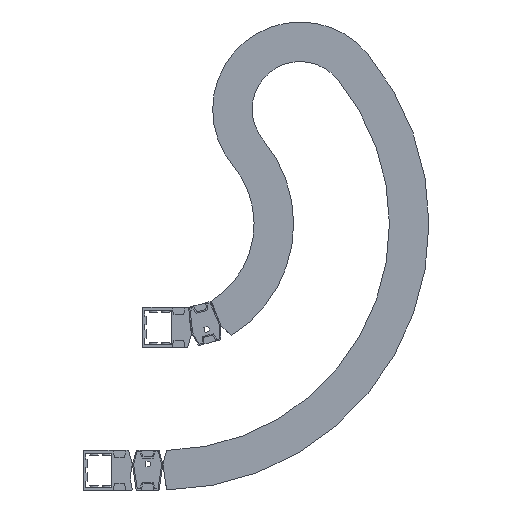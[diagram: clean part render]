
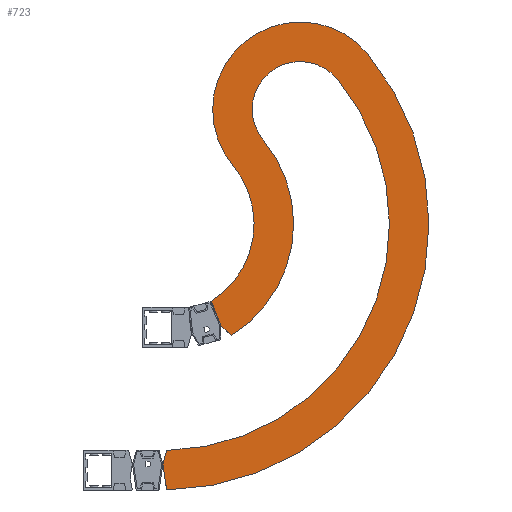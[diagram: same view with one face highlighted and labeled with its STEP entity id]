
A CAD part, front view. The second image highlights one B-rep face of the part: STEP entity #723.
In plain terms, the highlighted planar face has unit normal (0, -1, 0).
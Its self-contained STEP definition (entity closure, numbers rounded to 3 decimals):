
#723 = ADVANCED_FACE( '', ( #1628 ), #1629, .F. );
#1628 = FACE_OUTER_BOUND( '', #2756, .T. );
#1629 = PLANE( '', #2757 );
#2756 = EDGE_LOOP( '', ( #4772, #4773, #4774, #4775, #4776, #4777, #4778, #4779, #4780, #4781 ) );
#2757 = AXIS2_PLACEMENT_3D( '', #4782, #4783, #4784 );
#4772 = ORIENTED_EDGE( '', *, *, #7454, .F. );
#4773 = ORIENTED_EDGE( '', *, *, #7678, .F. );
#4774 = ORIENTED_EDGE( '', *, *, #7458, .F. );
#4775 = ORIENTED_EDGE( '', *, *, #7679, .T. );
#4776 = ORIENTED_EDGE( '', *, *, #7680, .F. );
#4777 = ORIENTED_EDGE( '', *, *, #7681, .F. );
#4778 = ORIENTED_EDGE( '', *, *, #7045, .F. );
#4779 = ORIENTED_EDGE( '', *, *, #7016, .T. );
#4780 = ORIENTED_EDGE( '', *, *, #7281, .T. );
#4781 = ORIENTED_EDGE( '', *, *, #7682, .F. );
#4782 = CARTESIAN_POINT( '', ( 0., -51.5, 0. ) );
#4783 = DIRECTION( '', ( 0., 1., 0. ) );
#4784 = DIRECTION( '', ( 0., 0., 1. ) );
#7016 = EDGE_CURVE( '', #8464, #8465, #8466, .T. );
#7045 = EDGE_CURVE( '', #8464, #8516, #8517, .T. );
#7281 = EDGE_CURVE( '', #8465, #8926, #8927, .T. );
#7454 = EDGE_CURVE( '', #9214, #9216, #9217, .T. );
#7458 = EDGE_CURVE( '', #9222, #9223, #9224, .T. );
#7678 = EDGE_CURVE( '', #9223, #9214, #9556, .T. );
#7679 = EDGE_CURVE( '', #9222, #9557, #9558, .T. );
#7680 = EDGE_CURVE( '', #9559, #9557, #9560, .T. );
#7681 = EDGE_CURVE( '', #8516, #9559, #9561, .T. );
#7682 = EDGE_CURVE( '', #9216, #8926, #9562, .T. );
#8464 = VERTEX_POINT( '', #10574 );
#8465 = VERTEX_POINT( '', #10575 );
#8466 = CIRCLE( '', #10576, 63. );
#8516 = VERTEX_POINT( '', #10643 );
#8517 = CIRCLE( '', #10644, 172. );
#8926 = VERTEX_POINT( '', #11224 );
#8927 = CIRCLE( '', #11225, 298. );
#9214 = VERTEX_POINT( '', #11616 );
#9216 = VERTEX_POINT( '', #11619 );
#9217 = LINE( '', #11620, #11621 );
#9222 = VERTEX_POINT( '', #11628 );
#9223 = VERTEX_POINT( '', #11629 );
#9224 = CIRCLE( '', #11630, 115. );
#9556 = CIRCLE( '', #12113, 350. );
#9557 = VERTEX_POINT( '', #12114 );
#9558 = CIRCLE( '', #12115, 120. );
#9559 = VERTEX_POINT( '', #12116 );
#9560 = LINE( '', #12117, #12118 );
#9561 = LINE( '', #12119, #12120 );
#9562 = LINE( '', #12121, #12122 );
#10574 = CARTESIAN_POINT( '', ( 132.127, -51.5, 110.121 ) );
#10575 = CARTESIAN_POINT( '', ( 228.917, -51.5, 190.79 ) );
#10576 = AXIS2_PLACEMENT_3D( '', #13334, #13335, #13336 );
#10643 = CARTESIAN_POINT( '', ( 89.657, -51.5, -146.784 ) );
#10644 = AXIS2_PLACEMENT_3D( '', #13369, #13370, #13371 );
#11224 = CARTESIAN_POINT( '', ( 4.992, -51.5, -297.958 ) );
#11225 = AXIS2_PLACEMENT_3D( '', #13639, #13640, #13641 );
#11616 = CARTESIAN_POINT( '', ( 4.975, -51.5, -349.965 ) );
#11619 = CARTESIAN_POINT( '', ( 0., -51.5, -316. ) );
#11620 = CARTESIAN_POINT( '', ( 4.975, -51.5, -349.965 ) );
#11621 = VECTOR( '', #13843, 1000. );
#11628 = CARTESIAN_POINT( '', ( 92.181, -51.5, 76.828 ) );
#11629 = CARTESIAN_POINT( '', ( 268.862, -51.5, 224.083 ) );
#11630 = AXIS2_PLACEMENT_3D( '', #13846, #13847, #13848 );
#12113 = AXIS2_PLACEMENT_3D( '', #14081, #14082, #14083 );
#12114 = CARTESIAN_POINT( '', ( 63.857, -51.5, -101.599 ) );
#12115 = AXIS2_PLACEMENT_3D( '', #14084, #14085, #14086 );
#12116 = CARTESIAN_POINT( '', ( 76.45, -51.5, -133.684 ) );
#12117 = CARTESIAN_POINT( '', ( 76.45, -51.5, -133.684 ) );
#12118 = VECTOR( '', #14087, 1000. );
#12119 = CARTESIAN_POINT( '', ( 89.657, -51.5, -146.784 ) );
#12120 = VECTOR( '', #14088, 1000. );
#12121 = CARTESIAN_POINT( '', ( 0., -51.5, -316. ) );
#12122 = VECTOR( '', #14089, 1000. );
#13334 = CARTESIAN_POINT( '', ( 180.522, -51.5, 150.456 ) );
#13335 = DIRECTION( '', ( 0., 1., 0. ) );
#13336 = DIRECTION( '', ( 1., 0., 0. ) );
#13369 = CARTESIAN_POINT( '', ( 0., -51.5, 0. ) );
#13370 = DIRECTION( '', ( 0., 1., 0. ) );
#13371 = DIRECTION( '', ( 1., 0., 0. ) );
#13639 = CARTESIAN_POINT( '', ( 0., -51.5, 0. ) );
#13640 = DIRECTION( '', ( 0., 1., 0. ) );
#13641 = DIRECTION( '', ( 1., 0., 0. ) );
#13843 = DIRECTION( '', ( -0.145, 0., 0.989 ) );
#13846 = CARTESIAN_POINT( '', ( 180.522, -51.5, 150.456 ) );
#13847 = DIRECTION( '', ( 0., 1., 0. ) );
#13848 = DIRECTION( '', ( 1., 0., 0. ) );
#14081 = CARTESIAN_POINT( '', ( 0., -51.5, 0. ) );
#14082 = DIRECTION( '', ( 0., 1., 0. ) );
#14083 = DIRECTION( '', ( 1., 0., 0. ) );
#14084 = CARTESIAN_POINT( '', ( 0., -51.5, 0. ) );
#14085 = DIRECTION( '', ( 0., 1., 0. ) );
#14086 = DIRECTION( '', ( 1., 0., 0. ) );
#14087 = DIRECTION( '', ( -0.365, 0., 0.931 ) );
#14088 = DIRECTION( '', ( -0.71, 0., 0.704 ) );
#14089 = DIRECTION( '', ( 0.267, 0., 0.964 ) );
